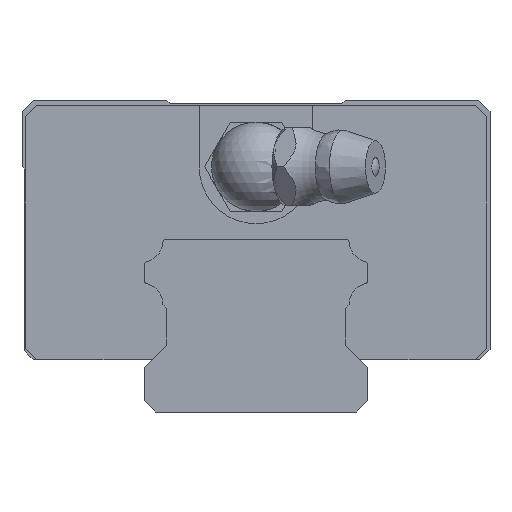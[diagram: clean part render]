
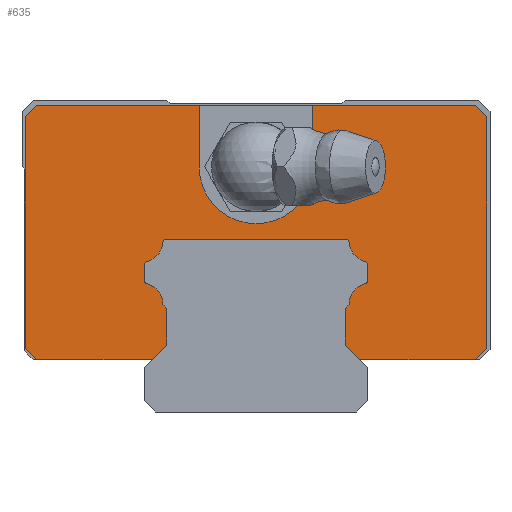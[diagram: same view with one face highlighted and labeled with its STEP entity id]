
A CAD part, front view. The second image highlights one B-rep face of the part: STEP entity #635.
In plain terms, the highlighted planar face has unit normal (0, -1, 0).
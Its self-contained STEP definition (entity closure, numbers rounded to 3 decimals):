
#509=CIRCLE('',#3089,1.9);
#510=CIRCLE('',#3090,0.3);
#511=CIRCLE('',#3091,0.3);
#512=CIRCLE('',#3092,1.9);
#513=CIRCLE('',#3093,0.3);
#514=CIRCLE('',#3094,0.3);
#515=CIRCLE('',#3095,1.9);
#516=CIRCLE('',#3096,0.3);
#517=CIRCLE('',#3097,0.3);
#518=CIRCLE('',#3098,1.9);
#519=CIRCLE('',#3099,5.1);
#635=ADVANCED_FACE('',(#890),#787,.T.);
#787=PLANE('',#3100);
#890=FACE_OUTER_BOUND('',#1013,.T.);
#1013=EDGE_LOOP('',(#1355,#1356,#1357,#1358,#1359,#1360,#1361,#1362,#1363,
#1364,#1365,#1366,#1367,#1368,#1369,#1370,#1371,#1372,#1373,#1374,#1375,
#1376,#1377,#1378,#1379,#1380,#1381,#1382,#1383,#1384,#1385,#1386));
#1355=ORIENTED_EDGE('',*,*,#2280,.F.);
#1356=ORIENTED_EDGE('',*,*,#2281,.F.);
#1357=ORIENTED_EDGE('',*,*,#2282,.F.);
#1358=ORIENTED_EDGE('',*,*,#2283,.F.);
#1359=ORIENTED_EDGE('',*,*,#2284,.F.);
#1360=ORIENTED_EDGE('',*,*,#2285,.F.);
#1361=ORIENTED_EDGE('',*,*,#2286,.F.);
#1362=ORIENTED_EDGE('',*,*,#2287,.F.);
#1363=ORIENTED_EDGE('',*,*,#2288,.F.);
#1364=ORIENTED_EDGE('',*,*,#2289,.F.);
#1365=ORIENTED_EDGE('',*,*,#2290,.F.);
#1366=ORIENTED_EDGE('',*,*,#2291,.F.);
#1367=ORIENTED_EDGE('',*,*,#2292,.F.);
#1368=ORIENTED_EDGE('',*,*,#2293,.F.);
#1369=ORIENTED_EDGE('',*,*,#2294,.F.);
#1370=ORIENTED_EDGE('',*,*,#2295,.F.);
#1371=ORIENTED_EDGE('',*,*,#2296,.F.);
#1372=ORIENTED_EDGE('',*,*,#2297,.F.);
#1373=ORIENTED_EDGE('',*,*,#2279,.F.);
#1374=ORIENTED_EDGE('',*,*,#2298,.F.);
#1375=ORIENTED_EDGE('',*,*,#2299,.F.);
#1376=ORIENTED_EDGE('',*,*,#2300,.F.);
#1377=ORIENTED_EDGE('',*,*,#2301,.F.);
#1378=ORIENTED_EDGE('',*,*,#2302,.T.);
#1379=ORIENTED_EDGE('',*,*,#2303,.T.);
#1380=ORIENTED_EDGE('',*,*,#2304,.T.);
#1381=ORIENTED_EDGE('',*,*,#2305,.F.);
#1382=ORIENTED_EDGE('',*,*,#2306,.F.);
#1383=ORIENTED_EDGE('',*,*,#2307,.F.);
#1384=ORIENTED_EDGE('',*,*,#2308,.F.);
#1385=ORIENTED_EDGE('',*,*,#2265,.F.);
#1386=ORIENTED_EDGE('',*,*,#2309,.F.);
#1976=VERTEX_POINT('',#4422);
#1977=VERTEX_POINT('',#4424);
#1983=VERTEX_POINT('',#4438);
#1990=VERTEX_POINT('',#4451);
#1991=VERTEX_POINT('',#4455);
#1992=VERTEX_POINT('',#4456);
#1993=VERTEX_POINT('',#4458);
#1994=VERTEX_POINT('',#4460);
#1995=VERTEX_POINT('',#4462);
#1996=VERTEX_POINT('',#4464);
#1997=VERTEX_POINT('',#4466);
#1998=VERTEX_POINT('',#4468);
#1999=VERTEX_POINT('',#4470);
#2000=VERTEX_POINT('',#4472);
#2001=VERTEX_POINT('',#4474);
#2002=VERTEX_POINT('',#4476);
#2003=VERTEX_POINT('',#4478);
#2004=VERTEX_POINT('',#4480);
#2005=VERTEX_POINT('',#4482);
#2006=VERTEX_POINT('',#4484);
#2007=VERTEX_POINT('',#4486);
#2008=VERTEX_POINT('',#4488);
#2009=VERTEX_POINT('',#4491);
#2010=VERTEX_POINT('',#4493);
#2011=VERTEX_POINT('',#4495);
#2012=VERTEX_POINT('',#4497);
#2013=VERTEX_POINT('',#4499);
#2014=VERTEX_POINT('',#4501);
#2015=VERTEX_POINT('',#4503);
#2016=VERTEX_POINT('',#4505);
#2017=VERTEX_POINT('',#4507);
#2018=VERTEX_POINT('',#4509);
#2265=EDGE_CURVE('',#1976,#1977,#2593,.T.);
#2279=EDGE_CURVE('',#1990,#1983,#2607,.T.);
#2280=EDGE_CURVE('',#1991,#1992,#2608,.T.);
#2281=EDGE_CURVE('',#1993,#1991,#2609,.T.);
#2282=EDGE_CURVE('',#1994,#1993,#509,.T.);
#2283=EDGE_CURVE('',#1995,#1994,#510,.T.);
#2284=EDGE_CURVE('',#1996,#1995,#2610,.T.);
#2285=EDGE_CURVE('',#1997,#1996,#511,.T.);
#2286=EDGE_CURVE('',#1998,#1997,#512,.T.);
#2287=EDGE_CURVE('',#1999,#1998,#513,.T.);
#2288=EDGE_CURVE('',#2000,#1999,#2611,.T.);
#2289=EDGE_CURVE('',#2001,#2000,#514,.T.);
#2290=EDGE_CURVE('',#2002,#2001,#515,.T.);
#2291=EDGE_CURVE('',#2003,#2002,#516,.T.);
#2292=EDGE_CURVE('',#2004,#2003,#2612,.T.);
#2293=EDGE_CURVE('',#2005,#2004,#517,.T.);
#2294=EDGE_CURVE('',#2006,#2005,#518,.T.);
#2295=EDGE_CURVE('',#2007,#2006,#2613,.T.);
#2296=EDGE_CURVE('',#2008,#2007,#2614,.T.);
#2297=EDGE_CURVE('',#1983,#2008,#2615,.T.);
#2298=EDGE_CURVE('',#2009,#1990,#2616,.T.);
#2299=EDGE_CURVE('',#2010,#2009,#2617,.T.);
#2300=EDGE_CURVE('',#2011,#2010,#2618,.T.);
#2301=EDGE_CURVE('',#2012,#2011,#2619,.T.);
#2302=EDGE_CURVE('',#2012,#2013,#2620,.T.);
#2303=EDGE_CURVE('',#2013,#2014,#519,.T.);
#2304=EDGE_CURVE('',#2014,#2015,#2621,.T.);
#2305=EDGE_CURVE('',#2016,#2015,#2622,.T.);
#2306=EDGE_CURVE('',#2017,#2016,#2623,.T.);
#2307=EDGE_CURVE('',#2018,#2017,#2624,.T.);
#2308=EDGE_CURVE('',#1977,#2018,#2625,.T.);
#2309=EDGE_CURVE('',#1992,#1976,#2626,.T.);
#2593=LINE('',#4423,#2831);
#2607=LINE('',#4452,#2845);
#2608=LINE('',#4454,#2846);
#2609=LINE('',#4457,#2847);
#2610=LINE('',#4463,#2848);
#2611=LINE('',#4471,#2849);
#2612=LINE('',#4479,#2850);
#2613=LINE('',#4485,#2851);
#2614=LINE('',#4487,#2852);
#2615=LINE('',#4489,#2853);
#2616=LINE('',#4490,#2854);
#2617=LINE('',#4492,#2855);
#2618=LINE('',#4494,#2856);
#2619=LINE('',#4496,#2857);
#2620=LINE('',#4498,#2858);
#2621=LINE('',#4502,#2859);
#2622=LINE('',#4504,#2860);
#2623=LINE('',#4506,#2861);
#2624=LINE('',#4508,#2862);
#2625=LINE('',#4510,#2863);
#2626=LINE('',#4511,#2864);
#2831=VECTOR('',#3454,1.);
#2845=VECTOR('',#3470,1.);
#2846=VECTOR('',#3473,1.);
#2847=VECTOR('',#3474,1.);
#2848=VECTOR('',#3479,1.);
#2849=VECTOR('',#3486,1.);
#2850=VECTOR('',#3493,1.);
#2851=VECTOR('',#3498,1.);
#2852=VECTOR('',#3499,1.);
#2853=VECTOR('',#3500,1.);
#2854=VECTOR('',#3501,1.);
#2855=VECTOR('',#3502,1.);
#2856=VECTOR('',#3503,1.);
#2857=VECTOR('',#3504,1.);
#2858=VECTOR('',#3505,1.);
#2859=VECTOR('',#3508,1.);
#2860=VECTOR('',#3509,1.);
#2861=VECTOR('',#3510,1.);
#2862=VECTOR('',#3511,1.);
#2863=VECTOR('',#3512,1.);
#2864=VECTOR('',#3513,1.);
#3089=AXIS2_PLACEMENT_3D('',#4459,#3475,#3476);
#3090=AXIS2_PLACEMENT_3D('',#4461,#3477,#3478);
#3091=AXIS2_PLACEMENT_3D('',#4465,#3480,#3481);
#3092=AXIS2_PLACEMENT_3D('',#4467,#3482,#3483);
#3093=AXIS2_PLACEMENT_3D('',#4469,#3484,#3485);
#3094=AXIS2_PLACEMENT_3D('',#4473,#3487,#3488);
#3095=AXIS2_PLACEMENT_3D('',#4475,#3489,#3490);
#3096=AXIS2_PLACEMENT_3D('',#4477,#3491,#3492);
#3097=AXIS2_PLACEMENT_3D('',#4481,#3494,#3495);
#3098=AXIS2_PLACEMENT_3D('',#4483,#3496,#3497);
#3099=AXIS2_PLACEMENT_3D('',#4500,#3506,#3507);
#3100=AXIS2_PLACEMENT_3D('',#4512,#3514,#3515);
#3454=DIRECTION('',(-1.,0.,0.));
#3470=DIRECTION('',(-1.,0.,0.));
#3473=DIRECTION('',(0.,0.,-1.));
#3474=DIRECTION('',(0.707,0.,-0.707));
#3475=DIRECTION('',(0.,1.,0.));
#3476=DIRECTION('',(0.,0.,-1.));
#3477=DIRECTION('',(0.,-1.,0.));
#3478=DIRECTION('',(0.,0.,-1.));
#3479=DIRECTION('',(0.,0.,-1.));
#3480=DIRECTION('',(0.,-1.,0.));
#3481=DIRECTION('',(0.,0.,-1.));
#3482=DIRECTION('',(0.,1.,0.));
#3483=DIRECTION('',(0.,0.,-1.));
#3484=DIRECTION('',(0.,-1.,0.));
#3485=DIRECTION('',(0.,0.,-1.));
#3486=DIRECTION('',(-1.,0.,0.));
#3487=DIRECTION('',(0.,-1.,0.));
#3488=DIRECTION('',(0.,0.,-1.));
#3489=DIRECTION('',(0.,1.,0.));
#3490=DIRECTION('',(0.,0.,-1.));
#3491=DIRECTION('',(0.,-1.,0.));
#3492=DIRECTION('',(0.,0.,-1.));
#3493=DIRECTION('',(0.,0.,1.));
#3494=DIRECTION('',(0.,-1.,0.));
#3495=DIRECTION('',(0.,0.,-1.));
#3496=DIRECTION('',(0.,1.,0.));
#3497=DIRECTION('',(0.,0.,-1.));
#3498=DIRECTION('',(0.707,0.,0.707));
#3499=DIRECTION('',(0.,0.,1.));
#3500=DIRECTION('',(-0.707,0.,0.707));
#3501=DIRECTION('',(-0.707,0.,-0.707));
#3502=DIRECTION('',(0.,0.,-1.));
#3503=DIRECTION('',(0.707,0.,-0.707));
#3504=DIRECTION('',(1.,0.,0.));
#3505=DIRECTION('',(0.,0.,-1.));
#3506=DIRECTION('',(0.,1.,0.));
#3507=DIRECTION('',(-1.,0.,0.));
#3508=DIRECTION('',(0.,0.,1.));
#3509=DIRECTION('',(1.,0.,0.));
#3510=DIRECTION('',(0.707,0.,0.707));
#3511=DIRECTION('',(0.,0.,1.));
#3512=DIRECTION('',(-0.707,0.,0.707));
#3513=DIRECTION('',(-0.707,0.,-0.707));
#3514=DIRECTION('',(0.,-1.,0.));
#3515=DIRECTION('',(0.,0.,-1.));
#4422=CARTESIAN_POINT('',(-9.3,-10.1,4.7));
#4423=CARTESIAN_POINT('',(19.7,-10.1,4.7));
#4424=CARTESIAN_POINT('',(-19.7,-10.1,4.7));
#4438=CARTESIAN_POINT('',(9.3,-10.1,4.7));
#4451=CARTESIAN_POINT('',(19.7,-10.1,4.7));
#4452=CARTESIAN_POINT('',(19.7,-10.1,4.7));
#4454=CARTESIAN_POINT('',(-8.,-10.1,22.));
#4455=CARTESIAN_POINT('',(-8.,-10.1,9.3));
#4456=CARTESIAN_POINT('',(-8.,-10.1,6.));
#4457=CARTESIAN_POINT('',(-10.35,-10.1,11.65));
#4458=CARTESIAN_POINT('',(-8.349,-10.1,9.649));
#4459=CARTESIAN_POINT('',(-10.249,-10.1,9.651));
#4460=CARTESIAN_POINT('',(-9.775,-10.1,11.49));
#4461=CARTESIAN_POINT('',(-9.7,-10.1,11.781));
#4462=CARTESIAN_POINT('',(-10.,-10.1,11.781));
#4463=CARTESIAN_POINT('',(-10.,-10.1,22.));
#4464=CARTESIAN_POINT('',(-10.,-10.1,13.219));
#4465=CARTESIAN_POINT('',(-9.7,-10.1,13.219));
#4466=CARTESIAN_POINT('',(-9.775,-10.1,13.51));
#4467=CARTESIAN_POINT('',(-10.249,-10.1,15.349));
#4468=CARTESIAN_POINT('',(-8.354,-10.1,15.22));
#4469=CARTESIAN_POINT('',(-8.055,-10.1,15.2));
#4470=CARTESIAN_POINT('',(-8.055,-10.1,15.5));
#4471=CARTESIAN_POINT('',(0.,-10.1,15.5));
#4472=CARTESIAN_POINT('',(8.055,-10.1,15.5));
#4473=CARTESIAN_POINT('',(8.055,-10.1,15.2));
#4474=CARTESIAN_POINT('',(8.354,-10.1,15.22));
#4475=CARTESIAN_POINT('',(10.249,-10.1,15.349));
#4476=CARTESIAN_POINT('',(9.775,-10.1,13.51));
#4477=CARTESIAN_POINT('',(9.7,-10.1,13.219));
#4478=CARTESIAN_POINT('',(10.,-10.1,13.219));
#4479=CARTESIAN_POINT('',(10.,-10.1,22.));
#4480=CARTESIAN_POINT('',(10.,-10.1,11.781));
#4481=CARTESIAN_POINT('',(9.7,-10.1,11.781));
#4482=CARTESIAN_POINT('',(9.775,-10.1,11.49));
#4483=CARTESIAN_POINT('',(10.249,-10.1,9.651));
#4484=CARTESIAN_POINT('',(8.349,-10.1,9.649));
#4485=CARTESIAN_POINT('',(10.35,-10.1,11.65));
#4486=CARTESIAN_POINT('',(8.,-10.1,9.3));
#4487=CARTESIAN_POINT('',(8.,-10.1,22.));
#4488=CARTESIAN_POINT('',(8.,-10.1,6.));
#4489=CARTESIAN_POINT('',(-4.,-10.1,18.));
#4490=CARTESIAN_POINT('',(20.7,-10.1,5.7));
#4491=CARTESIAN_POINT('',(20.7,-10.1,5.7));
#4492=CARTESIAN_POINT('',(20.7,-10.1,26.5));
#4493=CARTESIAN_POINT('',(20.7,-10.1,26.5));
#4494=CARTESIAN_POINT('',(19.7,-10.1,27.5));
#4495=CARTESIAN_POINT('',(19.7,-10.1,27.5));
#4496=CARTESIAN_POINT('',(-19.7,-10.1,27.5));
#4497=CARTESIAN_POINT('',(5.1,-10.1,27.5));
#4498=CARTESIAN_POINT('',(5.1,-10.1,27.5));
#4499=CARTESIAN_POINT('',(5.1,-10.1,22.));
#4500=CARTESIAN_POINT('',(0.,-10.1,22.));
#4501=CARTESIAN_POINT('',(-5.1,-10.1,22.));
#4502=CARTESIAN_POINT('',(-5.1,-10.1,22.));
#4503=CARTESIAN_POINT('',(-5.1,-10.1,27.5));
#4504=CARTESIAN_POINT('',(-19.7,-10.1,27.5));
#4505=CARTESIAN_POINT('',(-19.7,-10.1,27.5));
#4506=CARTESIAN_POINT('',(-20.7,-10.1,26.5));
#4507=CARTESIAN_POINT('',(-20.7,-10.1,26.5));
#4508=CARTESIAN_POINT('',(-20.7,-10.1,5.7));
#4509=CARTESIAN_POINT('',(-20.7,-10.1,5.7));
#4510=CARTESIAN_POINT('',(-19.7,-10.1,4.7));
#4511=CARTESIAN_POINT('',(4.,-10.1,18.));
#4512=CARTESIAN_POINT('',(0.,-10.1,22.));
